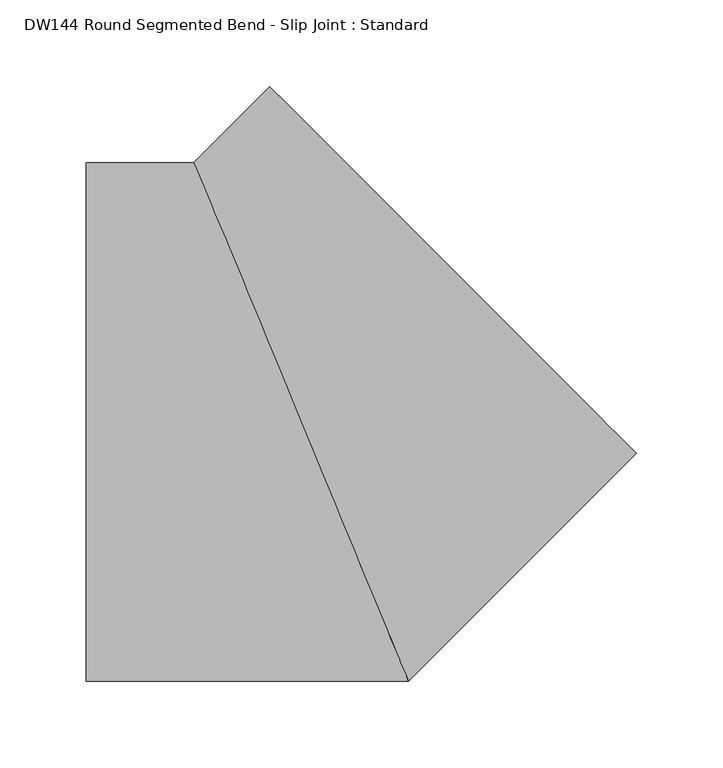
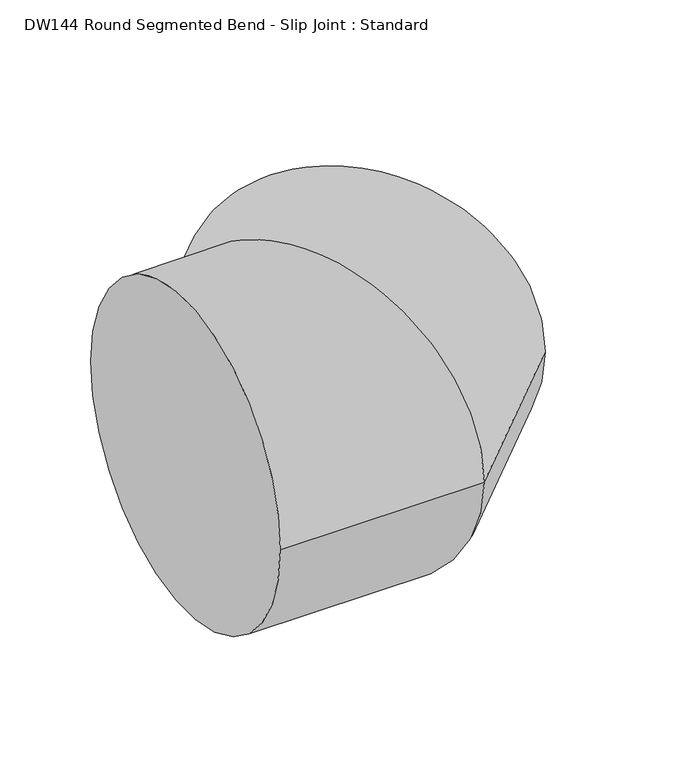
"""IFC4 building model written with IfcOpenShell, lengths in millimetres: duct fitting geometry, DW144 Round Segmented Bend - Slip Joint : Standard."""

from ifc_helpers import new_model, si_unit, frame, origin, place, context, project, spatial, circle_curve, ellipse_curve, source, transform, mapped, element, save
from ifc_brep_helpers import plane_surface, cylinder_surface, advanced_brep


def dw144_round_segmented_bend_slip_joint_standard_2e4ef361(model_context):
    return source(origin(), model_context, "Body", "AdvancedBrep", [
        advanced_brep(
        [(-124.2640687, -150.0, 0.0), (-124.2640687, 150.0, 0.0), (62.1320344, -150.0, 0.0), (-62.1320344, 150.0, 0.0), (193.9339828, -18.1980515, 0.0), (-18.1980515, 193.9339828, 0.0)],
        [
            (0, 1, circle_curve(frame((-124.2640687, 0.0, 0.0), z_axis=(-1.0, 0.0, 0.0), x_axis=(0.0, 1.0, 0.0)), 150.0)),
            (1, 0, circle_curve(frame((-124.2640687, 0.0, 0.0), z_axis=(-1.0, 0.0, 0.0), x_axis=(0.0, 1.0, 0.0)), 150.0)),
            (0, 2),
            (2, 3, ellipse_curve(frame((0.0, 0.0, 0.0), z_axis=(-0.9238795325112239, -0.3826834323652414, 0.0), x_axis=(-0.3826834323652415, 0.9238795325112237, 0.0)), 162.35883, 150.0)),
            (3, 1),
            (3, 2, ellipse_curve(frame((0.0, 0.0, 0.0), z_axis=(-0.9238795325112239, -0.3826834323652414, 0.0), x_axis=(-0.3826834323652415, 0.9238795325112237, 0.0)), 162.35883, 150.0)),
            (2, 4),
            (4, 5, circle_curve(frame((87.8679656, 87.8679656, 0.0), z_axis=(-0.7071067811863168, -0.7071067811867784, 0.0), x_axis=(-0.7071067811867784, 0.7071067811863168, 0.0)), 150.0)),
            (5, 3),
            (5, 4, circle_curve(frame((87.8679656, 87.8679656, 0.0), z_axis=(-0.7071067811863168, -0.7071067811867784, 0.0), x_axis=(-0.7071067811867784, 0.7071067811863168, 0.0)), 150.0)),
        ],
        [
            plane_surface(frame((-124.2640687, 0.0, 0.0), z_axis=(-1.0, 0.0, 0.0), x_axis=(0.0, 0.0, 1.0))),
            cylinder_surface(frame((-124.2640687, 0.0, 0.0), z_axis=(-1.0, 0.0, 0.0), x_axis=(0.0, 1.0, 0.0)), 150.0),
            cylinder_surface(frame((0.0, 0.0, 0.0), z_axis=(-0.7071067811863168, -0.7071067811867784, 0.0), x_axis=(-0.7071067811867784, 0.7071067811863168, 0.0)), 150.0),
            plane_surface(frame((87.8679656, 87.8679656, 0.0), z_axis=(0.7071067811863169, 0.7071067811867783, 0.0), x_axis=(0.0, 0.0, 1.0))),
        ],
        [
            (0, [[1, 2]]),
            (1, [[-1, 3, 4, 5]]),
            (1, [[-2, -5, 6, -3]]),
            (2, [[-4, 7, 8, 9]]),
            (2, [[-6, -9, 10, -7]]),
            (3, [[-10, -8]]),
        ],
    ),
    ])


if __name__ == "__main__":
    model = new_model("IFC4")
    model_context = context("Model", 3, world=origin())
    ifc_project = project(units=[si_unit("LENGTHUNIT", "METRE", prefix="MILLI")], contexts=[model_context])
    site = spatial("IfcSite", under=ifc_project)
    building = spatial("IfcBuilding", under=site)
    placement = place(None, origin())
    dw144_round_segmented_bend_slip_joint_standard_shape = dw144_round_segmented_bend_slip_joint_standard_2e4ef361(model_context)
    element("IfcDuctFitting", 1, ObjectType="DW144 Round Segmented Bend - Slip Joint : Standard", at=placement, inside=building, context=model_context, shape_type="MappedRepresentation", body=[
        mapped(dw144_round_segmented_bend_slip_joint_standard_shape, transform((0.0, 0.0, 0.0), x_axis=(1.0, 0.0, 0.0), y_axis=(0.0, 1.0, 0.0), z_axis=(0.0, 0.0, 1.0))),
    ])
    save(model, "model.ifc")
